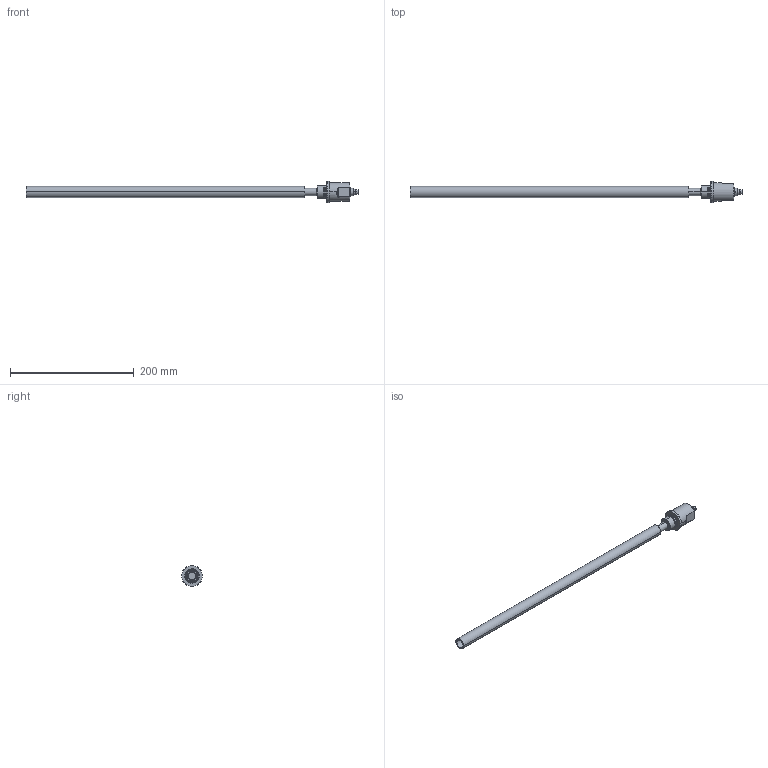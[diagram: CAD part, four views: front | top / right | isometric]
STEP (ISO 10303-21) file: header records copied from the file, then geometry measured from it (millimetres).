
FILE_DESCRIPTION((''),'2;1');
FILE_NAME('EDS-400-S-SA7_MIT_ROHR_ASM','2007-11-29T',('11000065'),(''),'PRO/ENGINEER BY PARAMETRIC TECHNOLOGY CORPORATION, 2007160','PRO/ENGINEER BY PARAMETRIC TECHNOLOGY CORPORATION, 2007160','');
FILE_SCHEMA(('AUTOMOTIVE_DESIGN { 1 2 10303 214 0 1 1 1 }'));
Length unit declared in the file: millimetre
Products named in the file (4): EDS-400-S-SA7; MESSROHR; O-RING-18X1_5; EDS-400-S-SA7_MIT_ROHR_ASM
Assembly tree (3 placements, depth 2):
  EDS-400-S-SA7_MIT_ROHR_ASM
    EDS-400-S-SA7
    MESSROHR
    O-RING-18X1_5
Bounding box: 536.19 x 34 x 34 mm (x, y, z)
Volume: 118034.9 mm3; surface area: 71656.7 mm2
Topology: 3 solids, 5 shells, 192 faces, 458 edges, 288 vertices
Faces by surface type: cylinder 95, plane 46, cone 20, sphere 14, torus 13, bspline 4
Entity records: 6260 total; most frequent: CARTESIAN_POINT 1296, DIRECTION 1058, ORIENTED_EDGE 884, AXIS2_PLACEMENT_3D 451, EDGE_CURVE 444, VERTEX_POINT 288, CIRCLE 254, EDGE_LOOP 224
